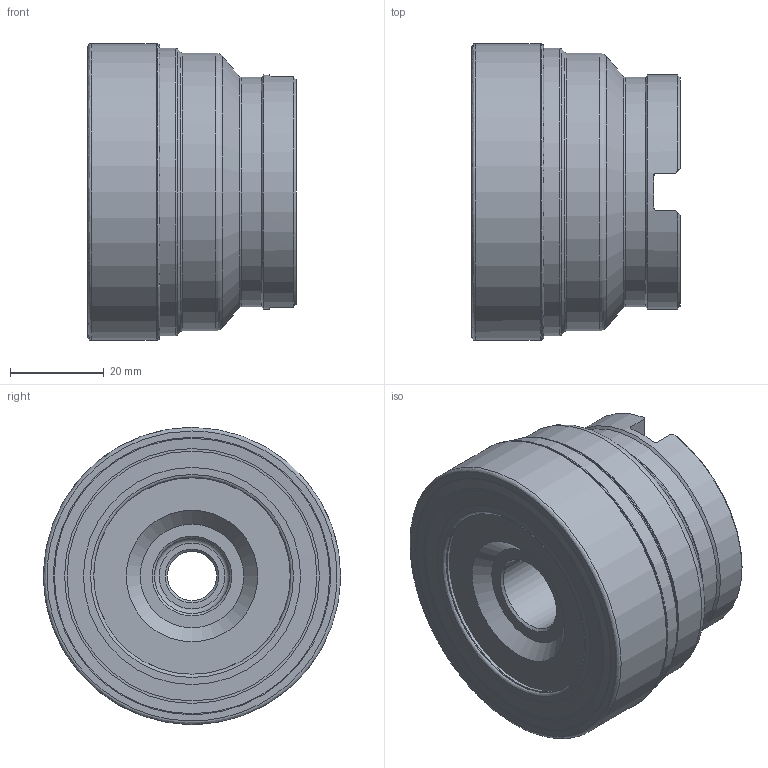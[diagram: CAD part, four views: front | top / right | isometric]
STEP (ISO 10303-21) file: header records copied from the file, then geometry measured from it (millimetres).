
FILE_DESCRIPTION(/* description */ (''),/* implementation_level */ '2;1');
FILE_NAME(/* name */ 'emp13-2.50''''-a0.75''''-an15-05c.stp',/* time_stamp */ '2021-06-17T15:18:42+08:00',/* author */ (''),/* organization */ (''),/* preprocessor_version */ 'ST-DEVELOPER v16.7',/* originating_system */ 'SIEMENS PLM Software NX 12.0',/* authorisation */ '');
FILE_SCHEMA (('AUTOMOTIVE_DESIGN { 1 0 10303 214 3 1 1 1 }'));
Length unit declared in the file: millimetre
Products named in the file (1): liuj1E246CBAu04l
Bounding box: 44.45 x 63.4 x 63.4 mm (x, y, z)
Volume: 123822.2 mm3; surface area: 23438.4 mm2
Topology: 2 solids, 2 shells, 79 faces, 180 edges, 108 vertices
Faces by surface type: plane 21, revolution 21, cone 14, cylinder 12, torus 11
Full cylindrical faces by diameter (mm): 10.5 x1, 16 x1, 19.05 x1, 21.05 x1, 49 x1, 50 x1, 59.3 x1, 61.3 x1
Entity records: 2364 total; most frequent: CARTESIAN_POINT 819, DIRECTION 299, ORIENTED_EDGE 244, EDGE_LOOP 134, AXIS2_PLACEMENT_3D 127, EDGE_CURVE 122, FACE_BOUND 110, VERTEX_POINT 98
